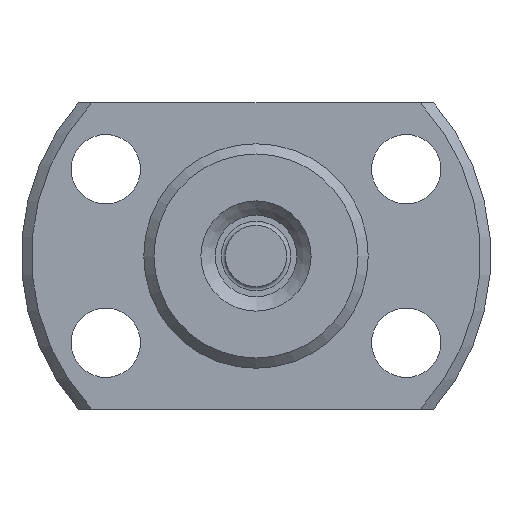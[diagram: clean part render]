
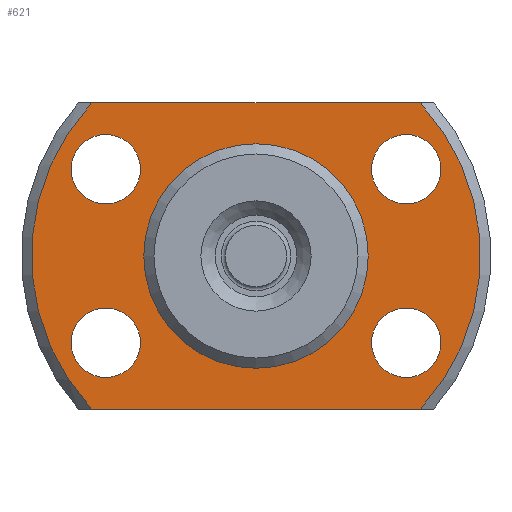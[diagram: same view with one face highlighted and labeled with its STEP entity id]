
A CAD part, left-side view. The second image highlights one B-rep face of the part: STEP entity #621.
In plain terms, the highlighted planar face has unit normal (-1, 0, 0) as drawn and (1, 0, 0) by its records, which use the part's own axes.
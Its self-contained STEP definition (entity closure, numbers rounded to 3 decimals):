
#75=LINE('',#1077,#91);
#76=LINE('',#1081,#92);
#91=VECTOR('',#893,1000.);
#92=VECTOR('',#896,1000.);
#164=ORIENTED_EDGE('',*,*,#275,.T.);
#165=ORIENTED_EDGE('',*,*,#276,.T.);
#166=ORIENTED_EDGE('',*,*,#277,.T.);
#167=ORIENTED_EDGE('',*,*,#278,.T.);
#168=ORIENTED_EDGE('',*,*,#279,.F.);
#169=ORIENTED_EDGE('',*,*,#280,.T.);
#170=ORIENTED_EDGE('',*,*,#281,.T.);
#171=ORIENTED_EDGE('',*,*,#282,.T.);
#172=ORIENTED_EDGE('',*,*,#283,.T.);
#275=EDGE_CURVE('',#341,#341,#393,.F.);
#276=EDGE_CURVE('',#342,#342,#394,.F.);
#277=EDGE_CURVE('',#343,#343,#395,.F.);
#278=EDGE_CURVE('',#344,#344,#396,.F.);
#279=EDGE_CURVE('',#345,#345,#397,.T.);
#280=EDGE_CURVE('',#346,#347,#398,.T.);
#281=EDGE_CURVE('',#347,#348,#75,.T.);
#282=EDGE_CURVE('',#348,#349,#399,.T.);
#283=EDGE_CURVE('',#349,#346,#76,.T.);
#341=VERTEX_POINT('',#1065);
#342=VERTEX_POINT('',#1067);
#343=VERTEX_POINT('',#1069);
#344=VERTEX_POINT('',#1071);
#345=VERTEX_POINT('',#1073);
#346=VERTEX_POINT('',#1075);
#347=VERTEX_POINT('',#1076);
#348=VERTEX_POINT('',#1078);
#349=VERTEX_POINT('',#1080);
#393=CIRCLE('',#722,1.7);
#394=CIRCLE('',#723,1.7);
#395=CIRCLE('',#724,1.7);
#396=CIRCLE('',#725,1.7);
#397=CIRCLE('',#726,5.375);
#398=CIRCLE('',#727,11.);
#399=CIRCLE('',#728,11.);
#457=EDGE_LOOP('',(#164));
#458=EDGE_LOOP('',(#165));
#459=EDGE_LOOP('',(#166));
#460=EDGE_LOOP('',(#167));
#461=EDGE_LOOP('',(#168));
#462=EDGE_LOOP('',(#169,#170,#171,#172));
#541=FACE_BOUND('',#457,.T.);
#542=FACE_BOUND('',#458,.T.);
#543=FACE_BOUND('',#459,.T.);
#544=FACE_BOUND('',#460,.T.);
#545=FACE_BOUND('',#461,.T.);
#546=FACE_BOUND('',#462,.T.);
#592=PLANE('',#721);
#621=ADVANCED_FACE('',(#541,#542,#543,#544,#545,#546),#592,.T.);
#721=AXIS2_PLACEMENT_3D('',#1063,#879,#880);
#722=AXIS2_PLACEMENT_3D('',#1064,#881,#882);
#723=AXIS2_PLACEMENT_3D('',#1066,#883,#884);
#724=AXIS2_PLACEMENT_3D('',#1068,#885,#886);
#725=AXIS2_PLACEMENT_3D('',#1070,#887,#888);
#726=AXIS2_PLACEMENT_3D('',#1072,#889,#890);
#727=AXIS2_PLACEMENT_3D('',#1074,#891,#892);
#728=AXIS2_PLACEMENT_3D('',#1079,#894,#895);
#879=DIRECTION('',(1.,0.,0.));
#880=DIRECTION('',(0.,0.,-1.));
#881=DIRECTION('',(1.,0.,0.));
#882=DIRECTION('',(0.,0.,-1.));
#883=DIRECTION('',(1.,0.,0.));
#884=DIRECTION('',(0.,0.,-1.));
#885=DIRECTION('',(1.,0.,0.));
#886=DIRECTION('',(0.,0.,-1.));
#887=DIRECTION('',(1.,0.,0.));
#888=DIRECTION('',(0.,0.,-1.));
#889=DIRECTION('',(1.,0.,0.));
#890=DIRECTION('',(0.,0.,-1.));
#891=DIRECTION('',(1.,0.,0.));
#892=DIRECTION('',(0.,0.,-1.));
#893=DIRECTION('',(0.,1.,0.));
#894=DIRECTION('',(1.,0.,0.));
#895=DIRECTION('',(0.,0.,-1.));
#896=DIRECTION('',(0.,-1.,0.));
#1063=CARTESIAN_POINT('',(4.,5.375,0.));
#1064=CARTESIAN_POINT('',(4.,7.361,4.25));
#1065=CARTESIAN_POINT('',(4.,7.361,2.55));
#1066=CARTESIAN_POINT('',(4.,-7.361,-4.25));
#1067=CARTESIAN_POINT('',(4.,-7.361,-5.95));
#1068=CARTESIAN_POINT('',(4.,-7.361,4.25));
#1069=CARTESIAN_POINT('',(4.,-7.361,2.55));
#1070=CARTESIAN_POINT('',(4.,7.361,-4.25));
#1071=CARTESIAN_POINT('',(4.,7.361,-5.95));
#1072=CARTESIAN_POINT('',(4.,0.,0.));
#1073=CARTESIAN_POINT('',(4.,0.,-5.375));
#1074=CARTESIAN_POINT('',(4.,0.,0.));
#1075=CARTESIAN_POINT('',(4.,-8.047,7.5));
#1076=CARTESIAN_POINT('',(4.,-8.047,-7.5));
#1077=CARTESIAN_POINT('',(4.,5.375,-7.5));
#1078=CARTESIAN_POINT('',(4.,8.047,-7.5));
#1079=CARTESIAN_POINT('',(4.,0.,0.));
#1080=CARTESIAN_POINT('',(4.,8.047,7.5));
#1081=CARTESIAN_POINT('',(4.,5.375,7.5));
